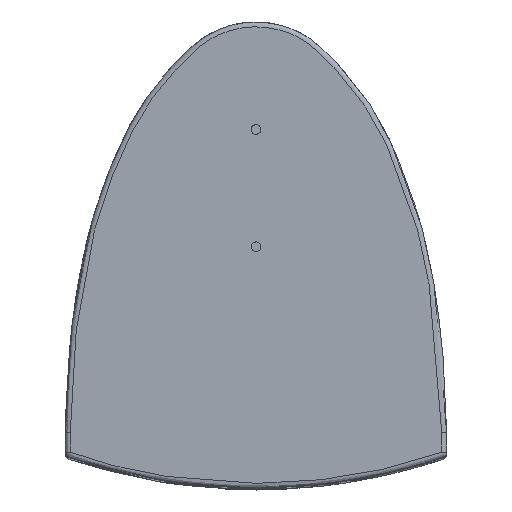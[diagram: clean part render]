
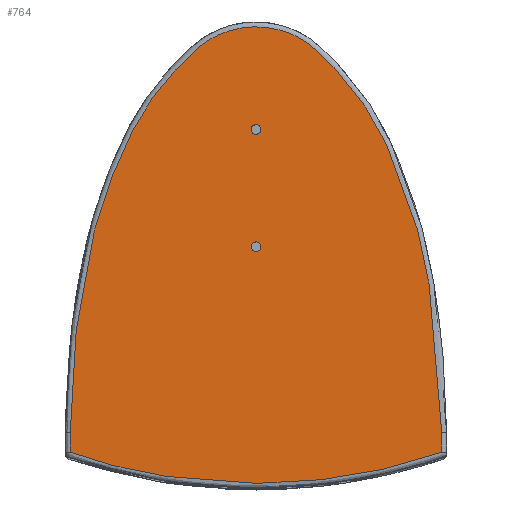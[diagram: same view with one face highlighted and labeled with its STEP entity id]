
A CAD part, top view. The second image highlights one B-rep face of the part: STEP entity #764.
In plain terms, the highlighted planar face has unit normal (0, 0, 1).
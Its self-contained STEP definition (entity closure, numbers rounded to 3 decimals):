
#46=B_SPLINE_CURVE_WITH_KNOTS('',1,(#6362,#6363),.UNSPECIFIED.,.F.,.F.,(2,
2),(0.,10.066),.UNSPECIFIED.);
#47=B_SPLINE_CURVE_WITH_KNOTS('',1,(#6364,#6365),.UNSPECIFIED.,.F.,.F.,(2,
2),(0.,10.064),.UNSPECIFIED.);
#238=FACE_BOUND('',#1059,.T.);
#239=FACE_BOUND('',#1060,.T.);
#269=PLANE('',#3571);
#764=ADVANCED_FACE('',(#907,#238,#239),#269,.T.);
#907=FACE_OUTER_BOUND('',#1058,.T.);
#1058=EDGE_LOOP('',(#1456,#1457,#1458,#1459));
#1059=EDGE_LOOP('',(#1460));
#1060=EDGE_LOOP('',(#1461));
#1456=ORIENTED_EDGE('',*,*,#2084,.T.);
#1457=ORIENTED_EDGE('',*,*,#2087,.T.);
#1458=ORIENTED_EDGE('',*,*,#2085,.T.);
#1459=ORIENTED_EDGE('',*,*,#2086,.T.);
#1460=ORIENTED_EDGE('',*,*,#2088,.T.);
#1461=ORIENTED_EDGE('',*,*,#2089,.T.);
#2084=EDGE_CURVE('',#3120,#3121,#46,.T.);
#2085=EDGE_CURVE('',#3122,#3123,#47,.T.);
#2086=EDGE_CURVE('',#3123,#3120,#2696,.T.);
#2087=EDGE_CURVE('',#3121,#3122,#2697,.T.);
#2088=EDGE_CURVE('',#3124,#3124,#2698,.T.);
#2089=EDGE_CURVE('',#3125,#3125,#2699,.T.);
#2696=(
BOUNDED_CURVE()
B_SPLINE_CURVE(3,(#6366,#6367,#6368,#6369,#6370,#6371,#6372,#6373,#6374,
#6375,#6376),.UNSPECIFIED.,.F.,.F.)
B_SPLINE_CURVE_WITH_KNOTS((4,3,1,3,4),(0.,0.623,
100.043,193.291,193.914),.UNSPECIFIED.)
CURVE()
GEOMETRIC_REPRESENTATION_ITEM()
RATIONAL_B_SPLINE_CURVE((1.,1.,1.,1.,1.,1.,1.,1.,1.,1.,1.))
REPRESENTATION_ITEM('')
);
#2697=(
BOUNDED_CURVE()
B_SPLINE_CURVE(3,(#6377,#6378,#6379,#6380,#6381,#6382,#6383,#6384,#6385,
#6386,#6387,#6388,#6389,#6390,#6391,#6392,#6393,#6394,#6395,#6396,#6397,
#6398,#6399,#6400,#6401,#6402),.UNSPECIFIED.,.F.,.F.)
B_SPLINE_CURVE_WITH_KNOTS((4,3,3,3,1,1,1,3,1,3,3,4),(0.,
85.232,151.305,211.888,228.75,245.611,
262.998,279.332,300.858,339.916,405.989,
491.221),.UNSPECIFIED.)
CURVE()
GEOMETRIC_REPRESENTATION_ITEM()
RATIONAL_B_SPLINE_CURVE((1.,1.,1.,1.,1.,1.,1.,1.,1.,1.,1.,
1.,1.,1.,1.,1.,1.,1.,1.,1.,1.,1.,1.,1.,
1.,1.))
REPRESENTATION_ITEM('')
);
#2698=(
BOUNDED_CURVE()
B_SPLINE_CURVE(2,(#6403,#6404,#6405,#6406,#6407,#6408,#6409,#6410,#6411),
 .UNSPECIFIED.,.T.,.F.)
B_SPLINE_CURVE_WITH_KNOTS((3,2,2,2,3),(0.,3.927,7.854,
11.781,15.708),.UNSPECIFIED.)
CURVE()
GEOMETRIC_REPRESENTATION_ITEM()
RATIONAL_B_SPLINE_CURVE((1.,0.707,1.,0.707,1.,0.707,
1.,0.707,1.))
REPRESENTATION_ITEM('')
);
#2699=(
BOUNDED_CURVE()
B_SPLINE_CURVE(2,(#6412,#6413,#6414,#6415,#6416,#6417,#6418,#6419,#6420),
 .UNSPECIFIED.,.T.,.F.)
B_SPLINE_CURVE_WITH_KNOTS((3,2,2,2,3),(0.,3.927,7.854,
11.781,15.708),.UNSPECIFIED.)
CURVE()
GEOMETRIC_REPRESENTATION_ITEM()
RATIONAL_B_SPLINE_CURVE((1.,0.707,1.,0.707,1.,0.707,
1.,0.707,1.))
REPRESENTATION_ITEM('')
);
#3120=VERTEX_POINT('',#6356);
#3121=VERTEX_POINT('',#6357);
#3122=VERTEX_POINT('',#6358);
#3123=VERTEX_POINT('',#6359);
#3124=VERTEX_POINT('',#6360);
#3125=VERTEX_POINT('',#6361);
#3571=AXIS2_PLACEMENT_3D('',#6355,#3614,$);
#3614=DIRECTION('',(0.,0.,1.));
#6355=CARTESIAN_POINT('',(121.877,148.951,255.));
#6356=CARTESIAN_POINT('',(95.002,-100.929,255.));
#6357=CARTESIAN_POINT('',(95.002,-90.864,255.));
#6358=CARTESIAN_POINT('',(-94.998,-90.864,255.));
#6359=CARTESIAN_POINT('',(-94.998,-100.927,255.));
#6360=CARTESIAN_POINT('',(2.507,64.136,255.));
#6361=CARTESIAN_POINT('',(2.507,4.136,255.));
#6362=CARTESIAN_POINT('',(95.002,-100.929,255.));
#6363=CARTESIAN_POINT('',(95.002,-90.864,255.));
#6364=CARTESIAN_POINT('',(-94.998,-90.864,255.));
#6365=CARTESIAN_POINT('',(-94.998,-100.927,255.));
#6366=CARTESIAN_POINT('',(-94.998,-100.927,255.));
#6367=CARTESIAN_POINT('',(-95.001,-101.137,255.));
#6368=CARTESIAN_POINT('',(-94.857,-101.338,255.));
#6369=CARTESIAN_POINT('',(-94.657,-101.402,255.));
#6370=CARTESIAN_POINT('',(-63.244,-111.963,255.));
#6371=CARTESIAN_POINT('',(1.084,-122.098,255.));
#6372=CARTESIAN_POINT('',(65.198,-111.304,255.));
#6373=CARTESIAN_POINT('',(94.661,-101.403,255.));
#6374=CARTESIAN_POINT('',(94.861,-101.339,255.));
#6375=CARTESIAN_POINT('',(95.005,-101.139,255.));
#6376=CARTESIAN_POINT('',(95.002,-100.929,255.));
#6377=CARTESIAN_POINT('',(95.002,-90.864,255.));
#6378=CARTESIAN_POINT('',(95.004,-62.453,255.));
#6379=CARTESIAN_POINT('',(92.297,-34.043,255.));
#6380=CARTESIAN_POINT('',(86.93,-6.143,255.));
#6381=CARTESIAN_POINT('',(82.773,15.485,255.));
#6382=CARTESIAN_POINT('',(75.955,36.601,255.));
#6383=CARTESIAN_POINT('',(66.677,56.576,255.));
#6384=CARTESIAN_POINT('',(58.185,74.9,255.));
#6385=CARTESIAN_POINT('',(45.896,91.452,255.));
#6386=CARTESIAN_POINT('',(30.82,104.887,255.));
#6387=CARTESIAN_POINT('',(26.628,108.631,255.));
#6388=CARTESIAN_POINT('',(16.861,114.566,255.));
#6389=CARTESIAN_POINT('',(-0.173,117.707,255.));
#6390=CARTESIAN_POINT('',(-17.033,114.5,255.));
#6391=CARTESIAN_POINT('',(-26.751,108.516,255.));
#6392=CARTESIAN_POINT('',(-30.815,104.888,255.));
#6393=CARTESIAN_POINT('',(-36.169,100.111,255.));
#6394=CARTESIAN_POINT('',(-50.265,85.575,255.));
#6395=CARTESIAN_POINT('',(-61.194,68.387,255.));
#6396=CARTESIAN_POINT('',(-66.673,56.576,255.));
#6397=CARTESIAN_POINT('',(-75.951,36.601,255.));
#6398=CARTESIAN_POINT('',(-82.769,15.486,255.));
#6399=CARTESIAN_POINT('',(-86.925,-6.143,255.));
#6400=CARTESIAN_POINT('',(-92.293,-34.042,255.));
#6401=CARTESIAN_POINT('',(-95.,-62.453,255.));
#6402=CARTESIAN_POINT('',(-94.998,-90.864,255.));
#6403=CARTESIAN_POINT('',(2.507,64.136,255.));
#6404=CARTESIAN_POINT('',(2.507,61.636,255.));
#6405=CARTESIAN_POINT('',(0.007,61.636,255.));
#6406=CARTESIAN_POINT('',(-2.493,61.636,255.));
#6407=CARTESIAN_POINT('',(-2.493,64.136,255.));
#6408=CARTESIAN_POINT('',(-2.493,66.636,255.));
#6409=CARTESIAN_POINT('',(0.007,66.636,255.));
#6410=CARTESIAN_POINT('',(2.507,66.636,255.));
#6411=CARTESIAN_POINT('',(2.507,64.136,255.));
#6412=CARTESIAN_POINT('',(2.507,4.136,255.));
#6413=CARTESIAN_POINT('',(2.507,1.636,255.));
#6414=CARTESIAN_POINT('',(0.007,1.636,255.));
#6415=CARTESIAN_POINT('',(-2.493,1.636,255.));
#6416=CARTESIAN_POINT('',(-2.493,4.136,255.));
#6417=CARTESIAN_POINT('',(-2.493,6.636,255.));
#6418=CARTESIAN_POINT('',(0.007,6.636,255.));
#6419=CARTESIAN_POINT('',(2.507,6.636,255.));
#6420=CARTESIAN_POINT('',(2.507,4.136,255.));
